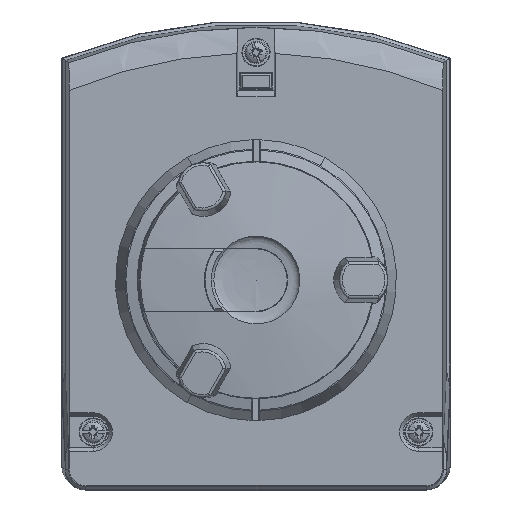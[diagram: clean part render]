
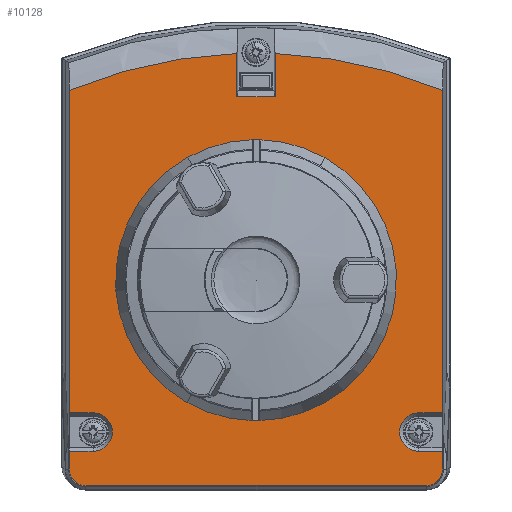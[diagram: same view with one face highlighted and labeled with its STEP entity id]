
A CAD part, top view. The second image highlights one B-rep face of the part: STEP entity #10128.
In plain terms, the highlighted planar face has unit normal (0, 0, 1).
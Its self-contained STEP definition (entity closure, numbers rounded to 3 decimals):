
#6746=LINE('',#32569,#7611);
#6750=LINE('',#32576,#7615);
#6754=LINE('',#32592,#7619);
#6756=LINE('',#32596,#7621);
#6760=LINE('',#32612,#7625);
#6762=LINE('',#32616,#7627);
#6763=LINE('',#32620,#7628);
#6764=LINE('',#32622,#7629);
#6765=LINE('',#32624,#7630);
#6766=LINE('',#32627,#7631);
#6767=LINE('',#32631,#7632);
#6768=LINE('',#32634,#7633);
#7611=VECTOR('',#24346,1.);
#7615=VECTOR('',#24352,1.);
#7619=VECTOR('',#24356,1.);
#7621=VECTOR('',#24360,1.);
#7625=VECTOR('',#24364,1.);
#7627=VECTOR('',#24368,1.);
#7628=VECTOR('',#24371,1.);
#7629=VECTOR('',#24372,1.);
#7630=VECTOR('',#24373,1.);
#7631=VECTOR('',#24376,1.);
#7632=VECTOR('',#24379,1.);
#7633=VECTOR('',#24384,1.);
#8052=PLANE('',#20836);
#8835=FACE_OUTER_BOUND('',#11108,.T.);
#10128=ADVANCED_FACE('',(#8835),#8052,.T.);
#11108=EDGE_LOOP('',(#15087,#15088,#15089,#15090,#15091,#15092,#15093,#15094,
#15095,#15096,#15097,#15098,#15099,#15100,#15101,#15102,#15103,#15104,#15105));
#11326=ELLIPSE('',#20802,0.313,0.25);
#11332=ELLIPSE('',#20833,5.507,5.5);
#11333=ELLIPSE('',#20834,5.507,5.5);
#15087=ORIENTED_EDGE('',*,*,#18763,.F.);
#15088=ORIENTED_EDGE('',*,*,#18753,.F.);
#15089=ORIENTED_EDGE('',*,*,#18764,.F.);
#15090=ORIENTED_EDGE('',*,*,#18765,.T.);
#15091=ORIENTED_EDGE('',*,*,#18766,.T.);
#15092=ORIENTED_EDGE('',*,*,#18767,.T.);
#15093=ORIENTED_EDGE('',*,*,#18768,.T.);
#15094=ORIENTED_EDGE('',*,*,#18755,.F.);
#15095=ORIENTED_EDGE('',*,*,#18769,.T.);
#15096=ORIENTED_EDGE('',*,*,#18770,.T.);
#15097=ORIENTED_EDGE('',*,*,#18771,.T.);
#15098=ORIENTED_EDGE('',*,*,#18761,.F.);
#15099=ORIENTED_EDGE('',*,*,#18772,.T.);
#15100=ORIENTED_EDGE('',*,*,#18743,.T.);
#15101=ORIENTED_EDGE('',*,*,#18773,.T.);
#15102=ORIENTED_EDGE('',*,*,#18747,.T.);
#15103=ORIENTED_EDGE('',*,*,#18686,.F.);
#15104=ORIENTED_EDGE('',*,*,#18774,.F.);
#15105=ORIENTED_EDGE('',*,*,#18775,.F.);
#16689=VERTEX_POINT('',#32422);
#16690=VERTEX_POINT('',#32424);
#16740=VERTEX_POINT('',#32568);
#16741=VERTEX_POINT('',#32570);
#16742=VERTEX_POINT('',#32575);
#16743=VERTEX_POINT('',#32577);
#16746=VERTEX_POINT('',#32591);
#16747=VERTEX_POINT('',#32595);
#16748=VERTEX_POINT('',#32597);
#16751=VERTEX_POINT('',#32611);
#16752=VERTEX_POINT('',#32613);
#16753=VERTEX_POINT('',#32617);
#16754=VERTEX_POINT('',#32619);
#16755=VERTEX_POINT('',#32621);
#16756=VERTEX_POINT('',#32623);
#16757=VERTEX_POINT('',#32625);
#16758=VERTEX_POINT('',#32628);
#16759=VERTEX_POINT('',#32630);
#16760=VERTEX_POINT('',#32635);
#18686=EDGE_CURVE('',#16690,#16689,#11326,.T.);
#18743=EDGE_CURVE('',#16741,#16740,#6746,.T.);
#18747=EDGE_CURVE('',#16743,#16689,#6750,.T.);
#18753=EDGE_CURVE('',#16746,#16742,#6754,.T.);
#18755=EDGE_CURVE('',#16747,#16748,#6756,.T.);
#18761=EDGE_CURVE('',#16751,#16752,#6760,.T.);
#18763=EDGE_CURVE('',#16742,#16753,#6762,.T.);
#18764=EDGE_CURVE('',#16754,#16746,#19473,.T.);
#18765=EDGE_CURVE('',#16754,#16755,#6763,.T.);
#18766=EDGE_CURVE('',#16755,#16756,#6764,.T.);
#18767=EDGE_CURVE('',#16756,#16757,#6765,.T.);
#18768=EDGE_CURVE('',#16757,#16748,#19474,.T.);
#18769=EDGE_CURVE('',#16747,#16758,#6766,.T.);
#18770=EDGE_CURVE('',#16758,#16759,#19475,.T.);
#18771=EDGE_CURVE('',#16759,#16752,#6767,.T.);
#18772=EDGE_CURVE('',#16751,#16741,#11332,.T.);
#18773=EDGE_CURVE('',#16740,#16743,#11333,.T.);
#18774=EDGE_CURVE('',#16760,#16690,#6768,.T.);
#18775=EDGE_CURVE('',#16753,#16760,#19476,.T.);
#19473=CIRCLE('',#20830,155.5);
#19474=CIRCLE('',#20831,155.5);
#19475=CIRCLE('',#20832,6.13);
#19476=CIRCLE('',#20835,6.13);
#20802=AXIS2_PLACEMENT_3D('',#32425,#24255,#24256);
#20830=AXIS2_PLACEMENT_3D('',#32618,#24369,#24370);
#20831=AXIS2_PLACEMENT_3D('',#32626,#24374,#24375);
#20832=AXIS2_PLACEMENT_3D('',#32629,#24377,#24378);
#20833=AXIS2_PLACEMENT_3D('',#32632,#24380,#24381);
#20834=AXIS2_PLACEMENT_3D('',#32633,#24382,#24383);
#20835=AXIS2_PLACEMENT_3D('',#32636,#24385,#24386);
#20836=AXIS2_PLACEMENT_3D('',#32637,#24387,#24388);
#24255=DIRECTION('',(0.,0.,-1.));
#24256=DIRECTION('',(-0.046,-0.999,0.));
#24346=DIRECTION('',(1.,0.,0.));
#24352=DIRECTION('',(0.,1.,0.));
#24356=DIRECTION('',(0.,-1.,0.));
#24360=DIRECTION('',(0.,1.,0.));
#24364=DIRECTION('',(0.,1.,0.));
#24368=DIRECTION('',(-1.,0.,0.));
#24369=DIRECTION('',(0.,0.,-1.));
#24370=DIRECTION('',(-1.,0.,0.));
#24371=DIRECTION('',(0.,-1.,0.));
#24372=DIRECTION('',(-1.,0.,0.));
#24373=DIRECTION('',(0.,1.,0.));
#24374=DIRECTION('',(0.,0.,1.));
#24375=DIRECTION('',(1.,0.,0.));
#24376=DIRECTION('',(1.,0.,0.));
#24377=DIRECTION('',(0.,0.,-1.));
#24378=DIRECTION('',(1.,0.,0.));
#24379=DIRECTION('',(-1.,0.,0.));
#24380=DIRECTION('',(0.,0.,1.));
#24381=DIRECTION('',(-0.707,-0.707,0.));
#24382=DIRECTION('',(0.,0.,1.));
#24383=DIRECTION('',(0.707,-0.707,0.));
#24384=DIRECTION('',(1.,0.,0.));
#24385=DIRECTION('',(0.,0.,1.));
#24386=DIRECTION('',(1.,0.,0.));
#24387=DIRECTION('',(0.,0.,1.));
#24388=DIRECTION('',(1.,0.,0.));
#32422=CARTESIAN_POINT('',(59.638,-54.937,37.975));
#32424=CARTESIAN_POINT('',(59.393,-54.63,37.975));
#32425=CARTESIAN_POINT('',(59.388,-54.943,37.975));
#32568=CARTESIAN_POINT('',(54.141,-65.679,37.975));
#32569=CARTESIAN_POINT('',(0.,-65.679,37.975));
#32570=CARTESIAN_POINT('',(-54.141,-65.679,37.975));
#32575=CARTESIAN_POINT('',(59.638,-42.37,37.975));
#32576=CARTESIAN_POINT('',(59.638,-83.,37.975));
#32577=CARTESIAN_POINT('',(59.638,-60.182,37.975));
#32591=CARTESIAN_POINT('',(59.638,60.609,37.975));
#32592=CARTESIAN_POINT('',(59.638,2.155,37.975));
#32595=CARTESIAN_POINT('',(-59.638,-42.37,37.975));
#32596=CARTESIAN_POINT('',(-59.638,-83.,37.975));
#32597=CARTESIAN_POINT('',(-59.638,60.609,37.975));
#32611=CARTESIAN_POINT('',(-59.638,-60.182,37.975));
#32612=CARTESIAN_POINT('',(-59.638,-83.,37.975));
#32613=CARTESIAN_POINT('',(-59.638,-54.63,37.975));
#32616=CARTESIAN_POINT('',(0.,-42.37,37.975));
#32617=CARTESIAN_POINT('',(52.,-42.37,37.975));
#32618=CARTESIAN_POINT('',(0.,-83.,37.975));
#32619=CARTESIAN_POINT('',(6.084,72.381,37.975));
#32620=CARTESIAN_POINT('',(6.084,72.75,37.975));
#32621=CARTESIAN_POINT('',(6.084,58.624,37.975));
#32622=CARTESIAN_POINT('',(0.,58.624,37.975));
#32623=CARTESIAN_POINT('',(-6.084,58.624,37.975));
#32624=CARTESIAN_POINT('',(-6.084,72.75,37.975));
#32625=CARTESIAN_POINT('',(-6.084,72.381,37.975));
#32626=CARTESIAN_POINT('',(0.,-83.,37.975));
#32627=CARTESIAN_POINT('',(0.,-42.37,37.975));
#32628=CARTESIAN_POINT('',(-52.,-42.37,37.975));
#32629=CARTESIAN_POINT('',(-52.,-48.5,37.975));
#32630=CARTESIAN_POINT('',(-52.,-54.63,37.975));
#32631=CARTESIAN_POINT('',(-52.,-54.63,37.975));
#32632=CARTESIAN_POINT('',(-54.135,-60.175,37.975));
#32633=CARTESIAN_POINT('',(54.135,-60.175,37.975));
#32634=CARTESIAN_POINT('',(-52.,-54.63,37.975));
#32635=CARTESIAN_POINT('',(52.,-54.63,37.975));
#32636=CARTESIAN_POINT('',(52.,-48.5,37.975));
#32637=CARTESIAN_POINT('',(0.,-83.,37.975));
